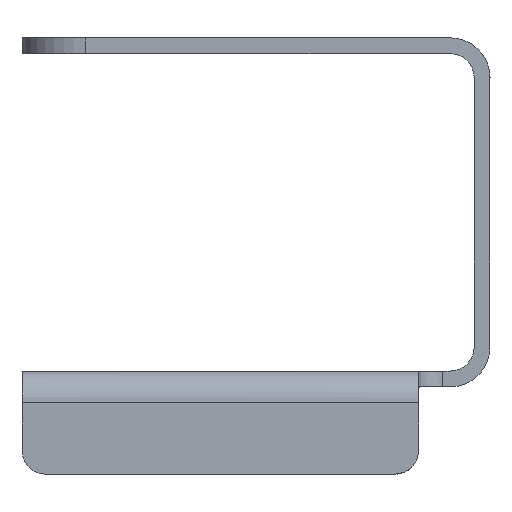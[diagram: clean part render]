
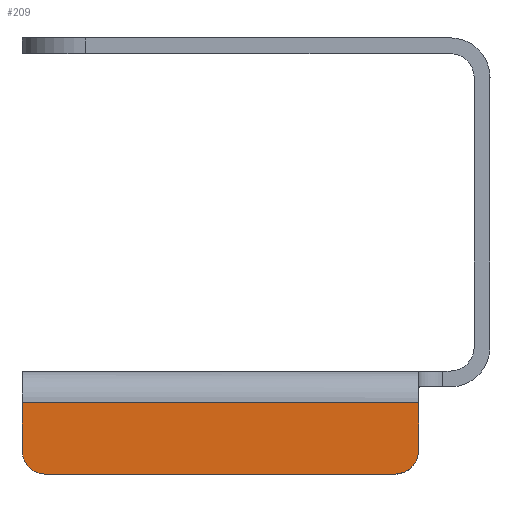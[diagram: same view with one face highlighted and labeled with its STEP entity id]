
A CAD part, left-side view. The second image highlights one B-rep face of the part: STEP entity #209.
In plain terms, the highlighted planar face has unit normal (-1, 0, 0).
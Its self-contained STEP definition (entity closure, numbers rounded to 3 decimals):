
#144=AXIS2_PLACEMENT_3D('Circle Axis2P3D',#142,#143,$) ;
#164=AXIS2_PLACEMENT_3D('Plane Axis2P3D',#161,#162,#163) ;
#50=CARTESIAN_POINT('Vertex',(1034.999,-732.999,29.)) ;
#53=CARTESIAN_POINT('Line Origine',(1034.999,-710.999,29.)) ;
#57=CARTESIAN_POINT('Vertex',(1034.999,-688.999,29.)) ;
#142=CARTESIAN_POINT('Axis2P3D Location',(1034.999,-732.999,32.)) ;
#146=CARTESIAN_POINT('Vertex',(1034.999,-735.999,32.)) ;
#161=CARTESIAN_POINT('Axis2P3D Location',(1034.999,-735.999,40.)) ;
#166=CARTESIAN_POINT('Line Origine',(1034.999,-735.999,35.)) ;
#170=CARTESIAN_POINT('Vertex',(1034.999,-735.999,38.)) ;
#173=CARTESIAN_POINT('Line Origine',(1034.999,-710.999,38.)) ;
#177=CARTESIAN_POINT('Vertex',(1034.999,-685.999,38.)) ;
#180=CARTESIAN_POINT('Line Origine',(1034.999,-685.999,35.)) ;
#184=CARTESIAN_POINT('Vertex',(1034.999,-685.999,32.)) ;
#188=CARTESIAN_POINT('Control Point',(1034.999,-688.999,29.)) ;
#189=CARTESIAN_POINT('Control Point',(1034.999,-688.66,29.)) ;
#190=CARTESIAN_POINT('Control Point',(1034.999,-688.32,29.048)) ;
#191=CARTESIAN_POINT('Control Point',(1034.999,-687.99,29.144)) ;
#192=CARTESIAN_POINT('Control Point',(1034.999,-687.365,29.427)) ;
#193=CARTESIAN_POINT('Control Point',(1034.999,-686.844,29.872)) ;
#194=CARTESIAN_POINT('Control Point',(1034.999,-686.616,30.13)) ;
#195=CARTESIAN_POINT('Control Point',(1034.999,-686.283,30.64)) ;
#196=CARTESIAN_POINT('Control Point',(1034.999,-686.086,31.213)) ;
#197=CARTESIAN_POINT('Control Point',(1034.999,-686.028,31.473)) ;
#198=CARTESIAN_POINT('Control Point',(1034.999,-685.999,31.737)) ;
#199=CARTESIAN_POINT('Control Point',(1034.999,-685.999,32.)) ;
#54=DIRECTION('Vector Direction',(0.,1.,0.)) ;
#143=DIRECTION('Axis2P3D Direction',(1.,0.,0.)) ;
#162=DIRECTION('Axis2P3D Direction',(-1.,0.,0.)) ;
#163=DIRECTION('Axis2P3D XDirection',(0.,1.,0.)) ;
#167=DIRECTION('Vector Direction',(0.,0.,-1.)) ;
#174=DIRECTION('Vector Direction',(0.,1.,0.)) ;
#181=DIRECTION('Vector Direction',(0.,0.,-1.)) ;
#55=VECTOR('Line Direction',#54,1.) ;
#168=VECTOR('Line Direction',#167,1.) ;
#175=VECTOR('Line Direction',#174,1.) ;
#182=VECTOR('Line Direction',#181,1.) ;
#202=ORIENTED_EDGE('',*,*,#59,.F.) ;
#203=ORIENTED_EDGE('',*,*,#148,.F.) ;
#204=ORIENTED_EDGE('',*,*,#172,.F.) ;
#205=ORIENTED_EDGE('',*,*,#179,.T.) ;
#206=ORIENTED_EDGE('',*,*,#186,.T.) ;
#207=ORIENTED_EDGE('',*,*,#200,.F.) ;
#209=ADVANCED_FACE('680.2\\interface-2.2.1\\\X2\51E04F554F53\X0\.38',(#208),#165,.T.) ;
#187=B_SPLINE_CURVE_WITH_KNOTS('',5,(#188,#189,#190,#191,#192,#193,#194,#195,#196,#197,#198,#199),.UNSPECIFIED.,.F.,.U.,(6,3,3,6),(0.,2.407,4.813,6.683),.UNSPECIFIED.) ;
#145=CIRCLE('generated circle',#144,3.) ;
#59=EDGE_CURVE('',#51,#58,#56,.T.) ;
#148=EDGE_CURVE('',#147,#51,#145,.T.) ;
#172=EDGE_CURVE('',#171,#147,#169,.T.) ;
#179=EDGE_CURVE('',#171,#178,#176,.T.) ;
#186=EDGE_CURVE('',#178,#185,#183,.T.) ;
#200=EDGE_CURVE('',#58,#185,#187,.T.) ;
#201=EDGE_LOOP('',(#202,#203,#204,#205,#206,#207)) ;
#208=FACE_OUTER_BOUND('',#201,.T.) ;
#56=LINE('Line',#53,#55) ;
#169=LINE('Line',#166,#168) ;
#176=LINE('Line',#173,#175) ;
#183=LINE('Line',#180,#182) ;
#165=PLANE('Plane',#164) ;
#51=VERTEX_POINT('',#50) ;
#58=VERTEX_POINT('',#57) ;
#147=VERTEX_POINT('',#146) ;
#171=VERTEX_POINT('',#170) ;
#178=VERTEX_POINT('',#177) ;
#185=VERTEX_POINT('',#184) ;
